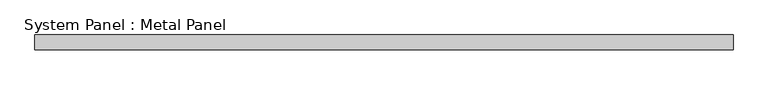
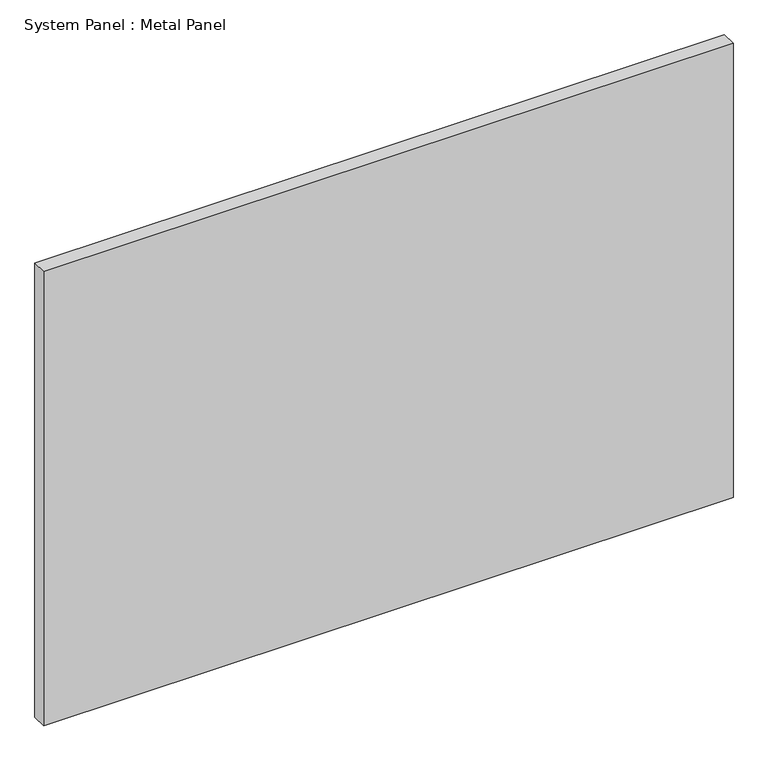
"""IFC4 building model written with IfcOpenShell, lengths in millimetres: plate geometry, System Panel : Metal Panel."""

import ifcopenshell
import ifcopenshell.guid

model = None  # the IFC model being written
_history = None  # IfcOwnerHistory: only IFC2X3 demands one
_inside = {}  # id of a spatial element -> (the spatial element, [elements in it])
_under = {}  # id of a project, library or spatial element -> (it, [spatial elements below it])
_declared = {}  # id of a project -> (the project, [libraries it declares])
_typed = {}  # id of a type object -> (the type object, [elements of that type])
_made_of = {}  # id of a material, layer set ... -> (it, [elements and type objects made of it])


def new_model(schema):
    """Start an empty IFC model of exactly this schema.

    Asked for "IFC4X3", IfcOpenShell would pick the latest addendum, in which some entities
    have other attributes; the version numbers below select the first issue.
    IFC2X3 requires an IfcOwnerHistory on every rooted entity: one is made here for all.
    """
    global model, _history
    if schema == "IFC4X3":
        model = ifcopenshell.file(schema_version=(4, 3, 0, 0))
    else:
        model = ifcopenshell.file(schema=schema)
    _inside.clear()
    _under.clear()
    _declared.clear()
    _typed.clear()
    _made_of.clear()
    _history = None
    if model.schema == "IFC2X3":
        org = make("IfcOrganization", Name="unknown")
        user = make(
            "IfcPersonAndOrganization",
            ThePerson=make("IfcPerson", FamilyName="unknown"),
            TheOrganization=org,
        )
        app = make(
            "IfcApplication",
            ApplicationDeveloper=org,
            Version="unknown",
            ApplicationFullName="unknown",
            ApplicationIdentifier="unknown",
        )
        _history = make(
            "IfcOwnerHistory",
            OwningUser=user,
            OwningApplication=app,
            ChangeAction="ADDED",
            CreationDate=0,
        )
    return model


def make(cls, **values):
    """One entity of the class cls with the attributes given. An attribute that is None is left unset."""
    return model.create_entity(
        cls, **{name: value for name, value in values.items() if value is not None}
    )


def rooted(cls, **values):
    """An entity with a GlobalId (a new one), such as an element, a storey or a relation."""
    return make(cls, GlobalId=ifcopenshell.guid.new(), OwnerHistory=_history, **values)


def si_unit(unit_type, name, prefix=None):
    """IfcSIUnit, for example si_unit("LENGTHUNIT", "METRE", prefix="MILLI")."""
    return make("IfcSIUnit", UnitType=unit_type, Prefix=prefix, Name=name)


def assignment(units):
    """IfcUnitAssignment: the units of a project."""
    return None if units is None else make("IfcUnitAssignment", Units=units)


def point(xyz):
    """IfcCartesianPoint."""
    return None if xyz is None else make("IfcCartesianPoint", Coordinates=xyz)


def direction(xyz):
    """IfcDirection."""
    return None if xyz is None else make("IfcDirection", DirectionRatios=xyz)


def frame(location, z_axis=None, x_axis=None):
    """IfcAxis2Placement3D, a coordinate frame: its origin and axes. An axis left out is left unset."""
    return make(
        "IfcAxis2Placement3D",
        Location=point(location),
        Axis=direction(z_axis),
        RefDirection=direction(x_axis),
    )


def origin():
    """The frame at (0, 0, 0) with its axes left unset."""
    return frame((0.0, 0.0, 0.0))


def origin_with_axes():
    """The frame at (0, 0, 0) with the z axis (0, 0, 1) and the x axis (1, 0, 0) written out."""
    return frame((0.0, 0.0, 0.0), z_axis=(0.0, 0.0, 1.0), x_axis=(1.0, 0.0, 0.0))


def place(relative_to, where):
    """IfcLocalPlacement: puts the frame where relative to a parent placement (None: the world)."""
    return make(
        "IfcLocalPlacement", PlacementRelTo=relative_to, RelativePlacement=where
    )


def context(
    kind, dimensions, precision=None, world=None, true_north=None, identifier=None
):
    """IfcGeometricRepresentationContext, for example the 3D "Model" context."""
    return make(
        "IfcGeometricRepresentationContext",
        ContextIdentifier=identifier,
        ContextType=kind,
        CoordinateSpaceDimension=dimensions,
        Precision=precision,
        WorldCoordinateSystem=world,
        TrueNorth=true_north,
    )


def project(units=None, contexts=None):
    """IfcProject with its units and contexts."""
    return rooted(
        "IfcProject",
        Name="project",
        RepresentationContexts=contexts,
        UnitsInContext=assignment(units),
    )


def spatial(cls, under=None, at=None, **own):
    """A site, building, storey or space (cls), placed at a placement, below another one or the project."""
    s = rooted(cls, ObjectPlacement=at, **own)
    if under is not None:
        _under.setdefault(under.id(), (under, []))[1].append(s)
    return s


def polyline(points):
    """IfcPolyline through the points."""
    return make("IfcPolyline", Points=[point(p) for p in points])


def outline(outer, holes=None, kind="AREA"):
    """IfcArbitraryClosedProfileDef: a profile drawn as a closed curve; with holes, ...WithVoids."""
    if holes is None:
        return make("IfcArbitraryClosedProfileDef", ProfileType=kind, OuterCurve=outer)
    return make(
        "IfcArbitraryProfileDefWithVoids",
        ProfileType=kind,
        OuterCurve=outer,
        InnerCurves=holes,
    )


def extrude(swept, where, along, depth):
    """IfcExtrudedAreaSolid: the profile swept, set in the frame where, extruded along a direction by depth."""
    return make(
        "IfcExtrudedAreaSolid",
        SweptArea=swept,
        Position=where,
        ExtrudedDirection=direction(along),
        Depth=depth,
    )


def shape(context_of_items, identifier, shape_type, items):
    """IfcShapeRepresentation: the items that make up one representation, for example the "Body"."""
    return make(
        "IfcShapeRepresentation",
        ContextOfItems=context_of_items,
        RepresentationIdentifier=identifier,
        RepresentationType=shape_type,
        Items=items,
    )


def source(mapping_origin, context_of_items, identifier, shape_type, items):
    """IfcRepresentationMap: a shape defined once, which mapped items show again and again."""
    return make(
        "IfcRepresentationMap",
        MappingOrigin=mapping_origin,
        MappedRepresentation=shape(context_of_items, identifier, shape_type, items),
    )


def transform(
    local_origin,
    x_axis=None,
    y_axis=None,
    z_axis=None,
    scale=None,
    scale2=None,
    scale3=None,
    uniform=True,
):
    """IfcCartesianTransformationOperator3D, or its non-uniform kind. x_axis, y_axis, z_axis: its Axis1, 2, 3."""
    if uniform:
        return make(
            "IfcCartesianTransformationOperator3D",
            Axis1=direction(x_axis),
            Axis2=direction(y_axis),
            LocalOrigin=point(local_origin),
            Scale=scale,
            Axis3=direction(z_axis),
        )
    return make(
        "IfcCartesianTransformationOperator3DnonUniform",
        Axis1=direction(x_axis),
        Axis2=direction(y_axis),
        LocalOrigin=point(local_origin),
        Scale=scale,
        Axis3=direction(z_axis),
        Scale2=scale2,
        Scale3=scale3,
    )


def mapped(mapping_source, mapping_target):
    """IfcMappedItem: shows the shape of a source again, moved by a transform."""
    return make(
        "IfcMappedItem", MappingSource=mapping_source, MappingTarget=mapping_target
    )


def made_of(thing, what):
    """Note that an element or type object is made of a material, layer set ...; save() writes the relation."""
    if what is not None:
        _made_of.setdefault(what.id(), (what, []))[1].append(thing)
    return thing


def element(
    cls,
    number,
    at=None,
    inside=None,
    cuts=None,
    type_object=None,
    material=None,
    context=None,
    identifier="Body",
    shape_type=None,
    held_by="IfcProductDefinitionShape",
    body=None,
    shapes=None,
    **own,
):
    """One element of the class cls, such as IfcWall. Its Tag is "e" and its number.

    at: its placement. inside: the storey or other place that contains it. cuts: it is an
    opening in that element (IfcRelVoidsElement). A single representation is given by context,
    identifier, shape_type and body (its items); several are given by shapes. held_by: the class
    of the entity that holds the representations. save() writes the other relations.
    """
    e = rooted(cls, Tag="e%d" % number, ObjectPlacement=at, **own)
    if body is not None:
        shapes = [shape(context, identifier, shape_type, body)]
    if shapes is not None:
        e.Representation = make(held_by, Representations=shapes)
    if inside is not None:
        _inside.setdefault(inside.id(), (inside, []))[1].append(e)
    if cuts is not None:
        rooted(
            "IfcRelVoidsElement", RelatingBuildingElement=cuts, RelatedOpeningElement=e
        )
    if type_object is not None:
        _typed.setdefault(type_object.id(), (type_object, []))[1].append(e)
    return made_of(e, material)


def aggregate(whole, parts):
    """IfcRelAggregates: a whole, such as a stair, and the parts it consists of."""
    return rooted("IfcRelAggregates", RelatingObject=whole, RelatedObjects=parts)


def save(model, path):
    """Write the relations noted so far, then the file.

    IfcRelAggregates (storeys below a building ...), IfcRelContainedInSpatialStructure (elements
    in a storey), IfcRelDefinesByType, IfcRelAssociatesMaterial and IfcRelDeclares: one each for
    every whole, place, type object, material and project.
    """
    for whole, parts in _under.values():
        aggregate(whole, parts)
    for where, things in _inside.values():
        rooted(
            "IfcRelContainedInSpatialStructure",
            RelatedElements=things,
            RelatingStructure=where,
        )
    for kind, things in _typed.values():
        rooted("IfcRelDefinesByType", RelatedObjects=things, RelatingType=kind)
    for what, things in _made_of.values():
        rooted("IfcRelAssociatesMaterial", RelatedObjects=things, RelatingMaterial=what)
    for by, libraries in _declared.values():
        rooted("IfcRelDeclares", RelatingContext=by, RelatedDefinitions=libraries)
    model.write(path)


def system_panel_metal_panel_ca084d4b(model_context):
    return source(origin(), model_context, "Body", "SweptSolid", [
        extrude(outline(polyline([(587.8744819, 19.05), (-587.8744819, 19.05), (-587.8744819, 44.45), (587.8744819, 44.45), (587.8744819, 19.05)])), origin_with_axes(), (0.0, 0.0, 1.0), 819.15),
    ])


if __name__ == "__main__":
    model = new_model("IFC4")
    model_context = context("Model", 3, world=origin())
    ifc_project = project(units=[si_unit("LENGTHUNIT", "METRE", prefix="MILLI")], contexts=[model_context])
    site = spatial("IfcSite", under=ifc_project)
    building = spatial("IfcBuilding", under=site)
    placement = place(None, origin())
    system_panel_metal_panel_shape = system_panel_metal_panel_ca084d4b(model_context)
    element("IfcPlate", 1, ObjectType="System Panel : Metal Panel", at=placement, inside=building, context=model_context, shape_type="MappedRepresentation", body=[
        mapped(system_panel_metal_panel_shape, transform((0.0, 0.0, 0.0), x_axis=(1.0, 0.0, 0.0), y_axis=(0.0, 1.0, 0.0), z_axis=(0.0, 0.0, 1.0))),
    ])
    save(model, "model.ifc")
